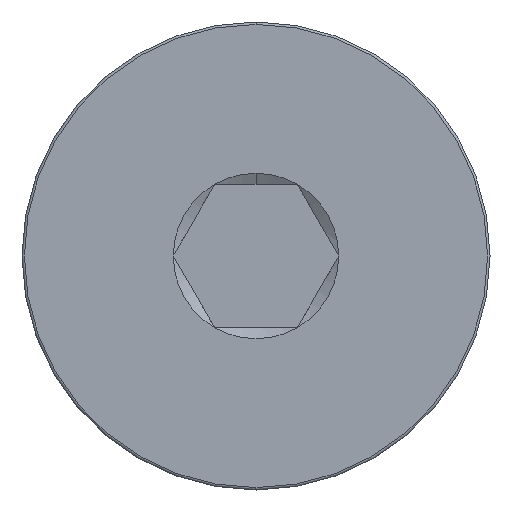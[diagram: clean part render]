
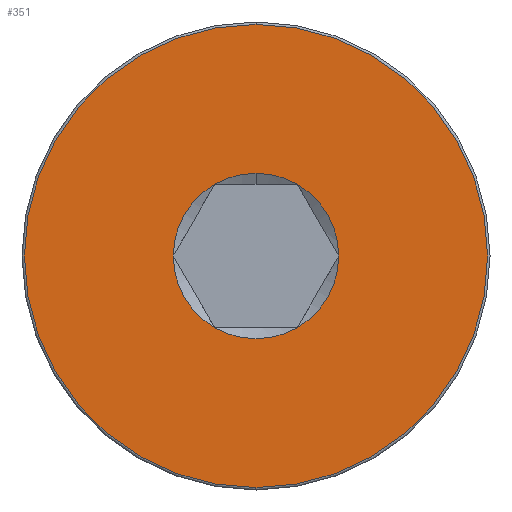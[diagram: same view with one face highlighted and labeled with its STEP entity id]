
A CAD part, left-side view. The second image highlights one B-rep face of the part: STEP entity #351.
In plain terms, the highlighted planar face has unit normal (-1, 0, 0).
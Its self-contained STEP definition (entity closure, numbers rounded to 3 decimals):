
#6 = CIRCLE ( 'NONE', #459, 1.732 ) ;
#8 = CARTESIAN_POINT ( 'NONE',  ( 0., 0., 0. ) ) ;
#11 = CARTESIAN_POINT ( 'NONE',  ( 0., 0., 0. ) ) ;
#12 = VERTEX_POINT ( 'NONE', #51 ) ;
#23 = ORIENTED_EDGE ( 'NONE', *, *, #704, .T. ) ;
#25 = EDGE_CURVE ( 'NONE', #400, #12, #30, .T. ) ;
#26 = DIRECTION ( 'NONE',  ( 0., 0., -1. ) ) ;
#28 = VERTEX_POINT ( 'NONE', #607 ) ;
#30 = CIRCLE ( 'NONE', #493, 4.85 ) ;
#32 = DIRECTION ( 'NONE',  ( 1., 0., 0. ) ) ;
#37 = CARTESIAN_POINT ( 'NONE',  ( 0., 0., 0. ) ) ;
#40 = VERTEX_POINT ( 'NONE', #532 ) ;
#42 = DIRECTION ( 'NONE',  ( -1., 0., 0. ) ) ;
#43 = VERTEX_POINT ( 'NONE', #408 ) ;
#51 = CARTESIAN_POINT ( 'NONE',  ( 0., 0., 4.85 ) ) ;
#57 = CARTESIAN_POINT ( 'NONE',  ( 0., 0.866, -1.5 ) ) ;
#59 = EDGE_CURVE ( 'NONE', #461, #28, #82, .T. ) ;
#62 = EDGE_LOOP ( 'NONE', ( #436, #212 ) ) ;
#70 = DIRECTION ( 'NONE',  ( 0., 0., 1. ) ) ;
#75 = ORIENTED_EDGE ( 'NONE', *, *, #223, .T. ) ;
#82 = CIRCLE ( 'NONE', #131, 1.732 ) ;
#83 = CARTESIAN_POINT ( 'NONE',  ( 0., 0., 0. ) ) ;
#101 = VERTEX_POINT ( 'NONE', #165 ) ;
#104 = CIRCLE ( 'NONE', #590, 1.732 ) ;
#106 = CIRCLE ( 'NONE', #536, 1.732 ) ;
#131 = AXIS2_PLACEMENT_3D ( 'NONE', #662, #471, #482 ) ;
#149 = DIRECTION ( 'NONE',  ( 0., 0., -1. ) ) ;
#155 = CARTESIAN_POINT ( 'NONE',  ( 0., 0., 0. ) ) ;
#165 = CARTESIAN_POINT ( 'NONE',  ( 0., -1.732, 0. ) ) ;
#184 = DIRECTION ( 'NONE',  ( -1., 0., 0. ) ) ;
#197 = EDGE_CURVE ( 'NONE', #101, #40, #104, .T. ) ;
#212 = ORIENTED_EDGE ( 'NONE', *, *, #25, .T. ) ;
#214 = DIRECTION ( 'NONE',  ( 0., 0., -1. ) ) ;
#215 = CIRCLE ( 'NONE', #616, 1.732 ) ;
#223 = EDGE_CURVE ( 'NONE', #40, #541, #507, .T. ) ;
#233 = DIRECTION ( 'NONE',  ( 0., 0., -1. ) ) ;
#258 = AXIS2_PLACEMENT_3D ( 'NONE', #11, #314, #26 ) ;
#269 = DIRECTION ( 'NONE',  ( 1., 0., 0. ) ) ;
#275 = FACE_BOUND ( 'NONE', #544, .T. ) ;
#279 = DIRECTION ( 'NONE',  ( -1., 0., 0. ) ) ;
#290 = CARTESIAN_POINT ( 'NONE',  ( 0., 0.866, 1.5 ) ) ;
#298 = CIRCLE ( 'NONE', #577, 4.85 ) ;
#314 = DIRECTION ( 'NONE',  ( 1., 0., 0. ) ) ;
#315 = ORIENTED_EDGE ( 'NONE', *, *, #557, .T. ) ;
#351 = ADVANCED_FACE ( 'NONE', ( #712, #275 ), #399, .T. ) ;
#361 = CARTESIAN_POINT ( 'NONE',  ( 0., 1.732, 0. ) ) ;
#367 = ORIENTED_EDGE ( 'NONE', *, *, #59, .T. ) ;
#384 = EDGE_CURVE ( 'NONE', #541, #778, #106, .T. ) ;
#397 = CARTESIAN_POINT ( 'NONE',  ( 0., 0., -4.85 ) ) ;
#399 = PLANE ( 'NONE',  #602 ) ;
#400 = VERTEX_POINT ( 'NONE', #397 ) ;
#408 = CARTESIAN_POINT ( 'NONE',  ( 0., -0.866, 1.5 ) ) ;
#410 = ORIENTED_EDGE ( 'NONE', *, *, #411, .T. ) ;
#411 = EDGE_CURVE ( 'NONE', #778, #461, #6, .T. ) ;
#429 = DIRECTION ( 'NONE',  ( 0., 0., -1. ) ) ;
#436 = ORIENTED_EDGE ( 'NONE', *, *, #486, .T. ) ;
#459 = AXIS2_PLACEMENT_3D ( 'NONE', #585, #32, #638 ) ;
#461 = VERTEX_POINT ( 'NONE', #290 ) ;
#471 = DIRECTION ( 'NONE',  ( 1., 0., 0. ) ) ;
#482 = DIRECTION ( 'NONE',  ( 0., 0., -1. ) ) ;
#486 = EDGE_CURVE ( 'NONE', #12, #400, #298, .T. ) ;
#493 = AXIS2_PLACEMENT_3D ( 'NONE', #8, #279, #70 ) ;
#507 = CIRCLE ( 'NONE', #258, 1.732 ) ;
#532 = CARTESIAN_POINT ( 'NONE',  ( 0., -0.866, -1.5 ) ) ;
#536 = AXIS2_PLACEMENT_3D ( 'NONE', #697, #705, #149 ) ;
#541 = VERTEX_POINT ( 'NONE', #57 ) ;
#544 = EDGE_LOOP ( 'NONE', ( #410, #367, #23, #315, #573, #75, #727 ) ) ;
#557 = EDGE_CURVE ( 'NONE', #43, #101, #215, .T. ) ;
#573 = ORIENTED_EDGE ( 'NONE', *, *, #197, .T. ) ;
#577 = AXIS2_PLACEMENT_3D ( 'NONE', #738, #184, #610 ) ;
#585 = CARTESIAN_POINT ( 'NONE',  ( 0., 0., 0. ) ) ;
#590 = AXIS2_PLACEMENT_3D ( 'NONE', #83, #618, #429 ) ;
#594 = DIRECTION ( 'NONE',  ( 0., 0., 1. ) ) ;
#602 = AXIS2_PLACEMENT_3D ( 'NONE', #37, #42, #594 ) ;
#607 = CARTESIAN_POINT ( 'NONE',  ( 0., 0., 1.732 ) ) ;
#610 = DIRECTION ( 'NONE',  ( 0., 0., 1. ) ) ;
#616 = AXIS2_PLACEMENT_3D ( 'NONE', #155, #723, #214 ) ;
#618 = DIRECTION ( 'NONE',  ( 1., 0., 0. ) ) ;
#632 = CIRCLE ( 'NONE', #681, 1.732 ) ;
#638 = DIRECTION ( 'NONE',  ( 0., 0., -1. ) ) ;
#647 = CARTESIAN_POINT ( 'NONE',  ( 0., 0., 0. ) ) ;
#662 = CARTESIAN_POINT ( 'NONE',  ( 0., 0., 0. ) ) ;
#681 = AXIS2_PLACEMENT_3D ( 'NONE', #647, #269, #233 ) ;
#697 = CARTESIAN_POINT ( 'NONE',  ( 0., 0., 0. ) ) ;
#704 = EDGE_CURVE ( 'NONE', #28, #43, #632, .T. ) ;
#705 = DIRECTION ( 'NONE',  ( 1., 0., 0. ) ) ;
#712 = FACE_OUTER_BOUND ( 'NONE', #62, .T. ) ;
#723 = DIRECTION ( 'NONE',  ( 1., 0., 0. ) ) ;
#727 = ORIENTED_EDGE ( 'NONE', *, *, #384, .T. ) ;
#738 = CARTESIAN_POINT ( 'NONE',  ( 0., 0., 0. ) ) ;
#778 = VERTEX_POINT ( 'NONE', #361 ) ;
